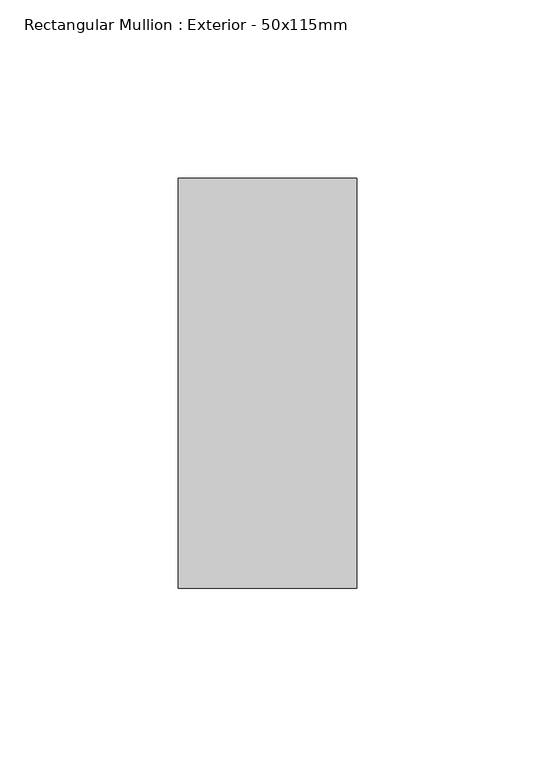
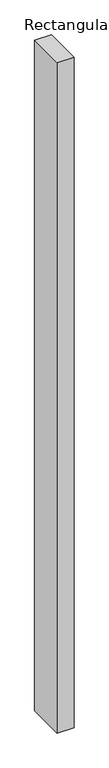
"""IFC4 building model written with IfcOpenShell, lengths in millimetres: member geometry, Rectangular Mullion : Exterior - 50x115mm."""

from ifc_helpers import new_model, si_unit, frame, origin, place, context, project, spatial, polyline, outline, extrude, source, transform, mapped, element, save


def rectangular_mullion_exterior_50x115mm_eaa21abb(model_context):
    return source(origin(), model_context, "Body", "SweptSolid", [
        extrude(outline(polyline([(25.0, 115.0), (25.0, 0.0), (-25.0, 0.0), (-25.0, 115.0), (25.0, 115.0)])), frame((0.0, 0.0, -2100.0), z_axis=(0.0, 0.0, 1.0), x_axis=(1.0, 0.0, 0.0)), (0.0, 0.0, 1.0), 2100.0),
    ])


if __name__ == "__main__":
    model = new_model("IFC4")
    model_context = context("Model", 3, world=origin())
    ifc_project = project(units=[si_unit("LENGTHUNIT", "METRE", prefix="MILLI")], contexts=[model_context])
    site = spatial("IfcSite", under=ifc_project)
    building = spatial("IfcBuilding", under=site)
    placement = place(None, origin())
    rectangular_mullion_exterior_50x115mm_shape = rectangular_mullion_exterior_50x115mm_eaa21abb(model_context)
    element("IfcMember", 1, ObjectType="Rectangular Mullion : Exterior - 50x115mm", at=placement, inside=building, context=model_context, shape_type="MappedRepresentation", body=[
        mapped(rectangular_mullion_exterior_50x115mm_shape, transform((0.0, 0.0, 0.0), x_axis=(1.0, 0.0, 0.0), y_axis=(0.0, 1.0, 0.0), z_axis=(0.0, 0.0, 1.0))),
    ])
    save(model, "model.ifc")
